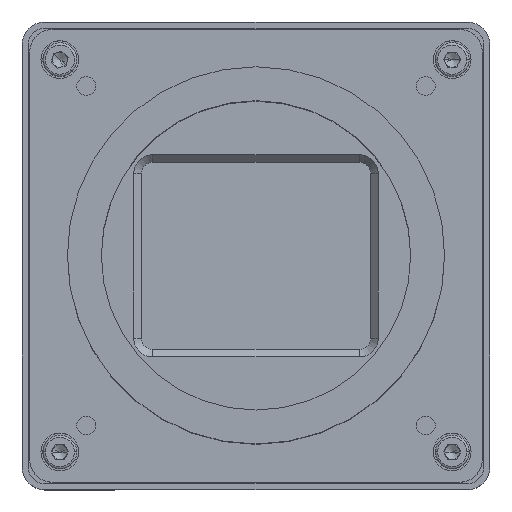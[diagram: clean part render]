
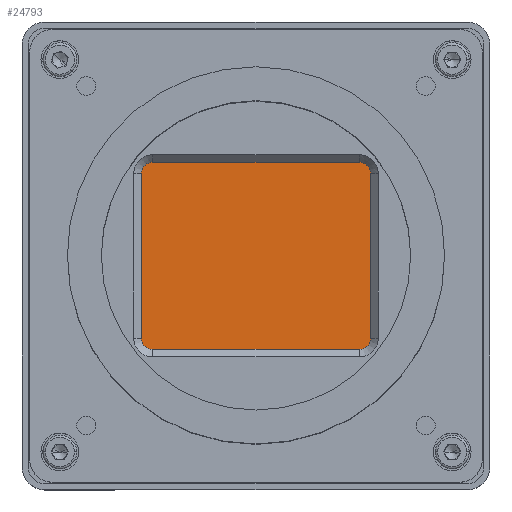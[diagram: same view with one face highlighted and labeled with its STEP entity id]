
A CAD part, top view. The second image highlights one B-rep face of the part: STEP entity #24793.
In plain terms, the highlighted planar face has unit normal (0, 0, 1).
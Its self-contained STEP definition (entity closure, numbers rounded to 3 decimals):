
#2326 = DIRECTION ( 'NONE',  ( 0., 0., 1. ) ) ;
#2646 = DIRECTION ( 'NONE',  ( -1., 0., 0. ) ) ;
#2814 = CIRCLE ( 'NONE', #71878, 2. ) ;
#3247 = EDGE_CURVE ( 'NONE', #77184, #69408, #112439, .T. ) ;
#14681 = ORIENTED_EDGE ( 'NONE', *, *, #57072, .T. ) ;
#15554 = CIRCLE ( 'NONE', #94120, 2. ) ;
#17251 = EDGE_CURVE ( 'NONE', #83725, #72171, #142805, .T. ) ;
#18151 = VERTEX_POINT ( 'NONE', #29805 ) ;
#24793 = ADVANCED_FACE ( 'NONE', ( #97213 ), #74971, .F. ) ;
#29805 = CARTESIAN_POINT ( 'NONE',  ( 15.5, 14.7, -5.35 ) ) ;
#30736 = CIRCLE ( 'NONE', #143926, 2. ) ;
#30895 = CARTESIAN_POINT ( 'NONE',  ( -15.5, 12.7, -5.35 ) ) ;
#32217 = ORIENTED_EDGE ( 'NONE', *, *, #127469, .T. ) ;
#35737 = CARTESIAN_POINT ( 'NONE',  ( -17.5, -12.7, -5.35 ) ) ;
#36398 = ORIENTED_EDGE ( 'NONE', *, *, #17251, .T. ) ;
#39916 = CARTESIAN_POINT ( 'NONE',  ( -17.5, -14.7, -5.35 ) ) ;
#39915 = DIRECTION ( 'NONE',  ( 0., 0., -1. ) ) ;
#44962 = DIRECTION ( 'NONE',  ( 0., 0., 1. ) ) ;
#48535 = CARTESIAN_POINT ( 'NONE',  ( 17.5, -12.7, -5.35 ) ) ;
#49945 = AXIS2_PLACEMENT_3D ( 'NONE', #140387, #68719, #152479 ) ;
#51180 = EDGE_CURVE ( 'NONE', #72171, #77115, #15554, .T. ) ;
#51406 = DIRECTION ( 'NONE',  ( -1., 0., 0. ) ) ;
#51952 = LINE ( 'NONE', #93066, #134379 ) ;
#52020 = VERTEX_POINT ( 'NONE', #97882 ) ;
#52321 = ORIENTED_EDGE ( 'NONE', *, *, #104236, .T. ) ;
#55144 = LINE ( 'NONE', #120214, #117037 ) ;
#56643 = CARTESIAN_POINT ( 'NONE',  ( 15.5, -14.7, -5.35 ) ) ;
#57072 = EDGE_CURVE ( 'NONE', #86901, #77184, #30736, .T. ) ;
#58469 = DIRECTION ( 'NONE',  ( 0., 1., 0. ) ) ;
#63679 = CIRCLE ( 'NONE', #49945, 2. ) ;
#66573 = ORIENTED_EDGE ( 'NONE', *, *, #83197, .T. ) ;
#68719 = DIRECTION ( 'NONE',  ( 0., 0., 1. ) ) ;
#69408 = VERTEX_POINT ( 'NONE', #35737 ) ;
#71878 = AXIS2_PLACEMENT_3D ( 'NONE', #120562, #2326, #97055 ) ;
#72171 = VERTEX_POINT ( 'NONE', #56643 ) ;
#74971 = PLANE ( 'NONE',  #76765 ) ;
#75405 = ORIENTED_EDGE ( 'NONE', *, *, #3247, .T. ) ;
#76765 = AXIS2_PLACEMENT_3D ( 'NONE', #147146, #39915, #51406 ) ;
#77115 = VERTEX_POINT ( 'NONE', #48535 ) ;
#77184 = VERTEX_POINT ( 'NONE', #143762 ) ;
#77461 = EDGE_CURVE ( 'NONE', #18151, #86901, #55144, .T. ) ;
#79499 = DIRECTION ( 'NONE',  ( -1., 0., 0. ) ) ;
#83197 = EDGE_CURVE ( 'NONE', #52020, #18151, #2814, .T. ) ;
#83725 = VERTEX_POINT ( 'NONE', #95292 ) ;
#86901 = VERTEX_POINT ( 'NONE', #153791 ) ;
#87608 = ORIENTED_EDGE ( 'NONE', *, *, #77461, .T. ) ;
#93066 = CARTESIAN_POINT ( 'NONE',  ( 17.5, -14.7, -5.35 ) ) ;
#94120 = AXIS2_PLACEMENT_3D ( 'NONE', #110441, #132892, #2646 ) ;
#94517 = CARTESIAN_POINT ( 'NONE',  ( -17.5, -14.7, -5.35 ) ) ;
#95292 = CARTESIAN_POINT ( 'NONE',  ( -15.5, -14.7, -5.35 ) ) ;
#97055 = DIRECTION ( 'NONE',  ( -1., 0., 0. ) ) ;
#97213 = FACE_OUTER_BOUND ( 'NONE', #134066, .T. ) ;
#97882 = CARTESIAN_POINT ( 'NONE',  ( 17.5, 12.7, -5.35 ) ) ;
#104236 = EDGE_CURVE ( 'NONE', #77115, #52020, #51952, .T. ) ;
#110441 = CARTESIAN_POINT ( 'NONE',  ( 15.5, -12.7, -5.35 ) ) ;
#112097 = DIRECTION ( 'NONE',  ( 0., -1., 0. ) ) ;
#112439 = LINE ( 'NONE', #39916, #136701 ) ;
#116996 = DIRECTION ( 'NONE',  ( 1., 0., 0. ) ) ;
#117037 = VECTOR ( 'NONE', #143193, 1000. ) ;
#118894 = ORIENTED_EDGE ( 'NONE', *, *, #51180, .T. ) ;
#120214 = CARTESIAN_POINT ( 'NONE',  ( -17.5, 14.7, -5.35 ) ) ;
#120562 = CARTESIAN_POINT ( 'NONE',  ( 15.5, 12.7, -5.35 ) ) ;
#127469 = EDGE_CURVE ( 'NONE', #69408, #83725, #63679, .T. ) ;
#129702 = VECTOR ( 'NONE', #116996, 1000. ) ;
#132892 = DIRECTION ( 'NONE',  ( 0., 0., 1. ) ) ;
#134066 = EDGE_LOOP ( 'NONE', ( #75405, #32217, #36398, #118894, #52321, #66573, #87608, #14681 ) ) ;
#134379 = VECTOR ( 'NONE', #58469, 1000. ) ;
#136701 = VECTOR ( 'NONE', #112097, 1000. ) ;
#140387 = CARTESIAN_POINT ( 'NONE',  ( -15.5, -12.7, -5.35 ) ) ;
#142805 = LINE ( 'NONE', #94517, #129702 ) ;
#143193 = DIRECTION ( 'NONE',  ( -1., 0., 0. ) ) ;
#143762 = CARTESIAN_POINT ( 'NONE',  ( -17.5, 12.7, -5.35 ) ) ;
#143926 = AXIS2_PLACEMENT_3D ( 'NONE', #30895, #44962, #79499 ) ;
#147146 = CARTESIAN_POINT ( 'NONE',  ( 0., 0., -5.35 ) ) ;
#152479 = DIRECTION ( 'NONE',  ( -1., 0., 0. ) ) ;
#153791 = CARTESIAN_POINT ( 'NONE',  ( -15.5, 14.7, -5.35 ) ) ;
